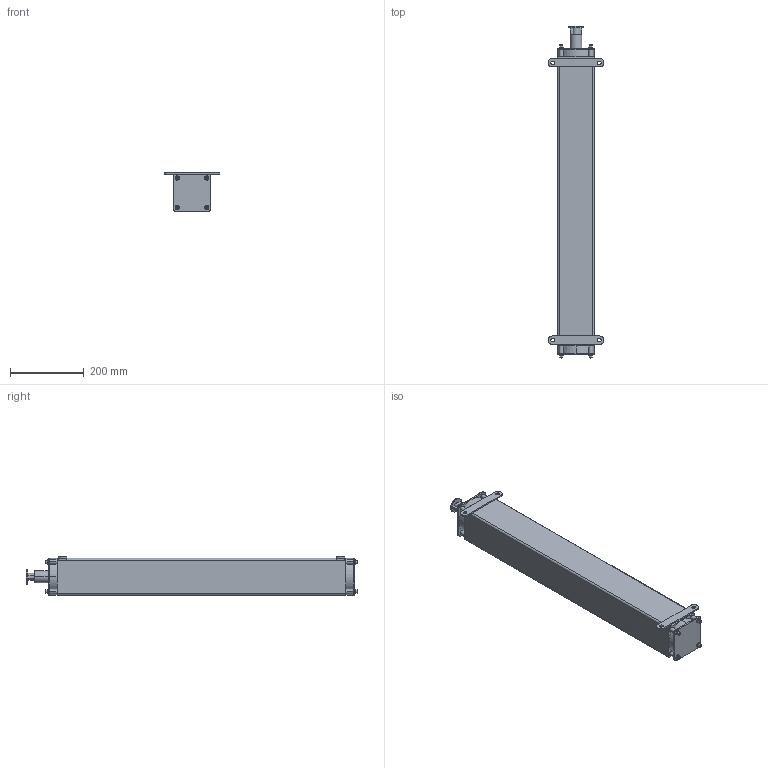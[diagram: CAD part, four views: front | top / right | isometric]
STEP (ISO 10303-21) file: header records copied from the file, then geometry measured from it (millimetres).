
FILE_DESCRIPTION((''),'2;1');
FILE_NAME('EFB-EX_ASM','2021-08-19T10:28:59',('18720616900'),(''),'CREO PARAMETRIC BY PTC INC, 2019010','CREO PARAMETRIC BY PTC INC, 2019010','');
FILE_SCHEMA(('CONFIG_CONTROL_DESIGN'));
Length unit declared in the file: millimetre
Products named in the file (6): EFB-EX-115; M6-50-0001; M6-1--00; M6-1-00; 0001_ASM; EFB-EX_ASM
Assembly tree (12 placements, depth 3):
  EFB-EX_ASM
    EFB-EX-115
    0001_ASM  x8
      M6-50-0001
      M6-1--00
      M6-1-00
Bounding box: 150 x 899.5 x 104 mm (x, y, z)
Volume: 1066601.2 mm3; surface area: 679849.7 mm2
Topology: 25 solids, 33 shells, 1249 faces, 3236 edges, 2074 vertices
Faces by surface type: cone 488, plane 265, bspline 264, cylinder 182, torus 50
Entity records: 19619 total; most frequent: CARTESIAN_POINT 10839, ORIENTED_EDGE 1806, DIRECTION 1744, EDGE_CURVE 919, AXIS2_PLACEMENT_3D 655, VERTEX_POINT 597, VECTOR 434, LINE 434
